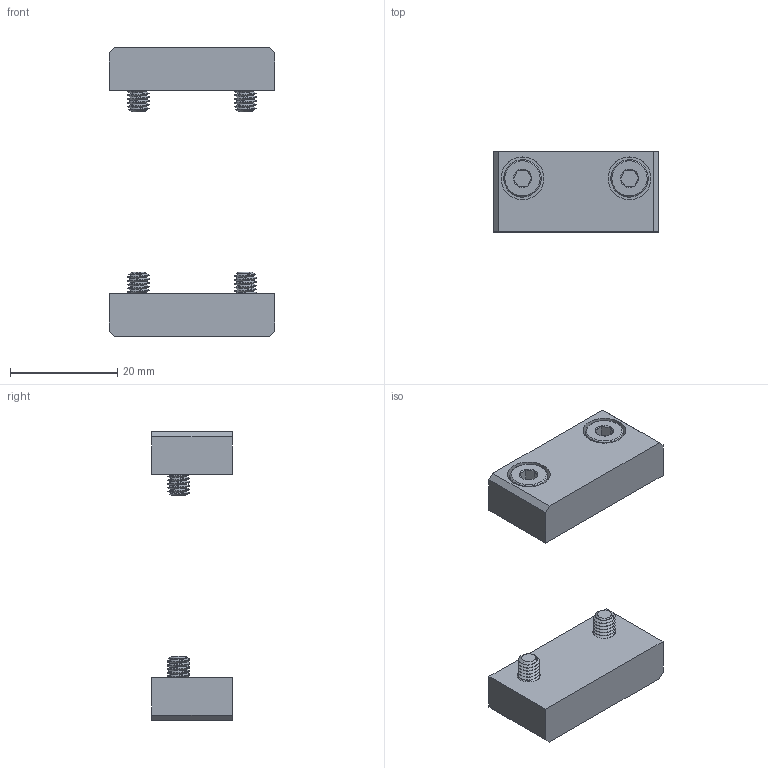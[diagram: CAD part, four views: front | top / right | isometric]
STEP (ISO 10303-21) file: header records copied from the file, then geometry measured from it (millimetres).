
FILE_DESCRIPTION (( 'STEP AP214' ), '1' );
FILE_NAME ('8800696_p.STEP', '2019-09-30T15:25:59', ( '' ), ( '' ), 'SwSTEP 2.0', 'SolidWorks 2018', '' );
FILE_SCHEMA (( 'AUTOMOTIVE_DESIGN' ));
Length unit declared in the file: millimetre
Products named in the file (1): 8800696_p
Bounding box: 31 x 15 x 54 mm (x, y, z)
Surface area: 4847.8 mm2 (no closed solid volume)
Topology: 0 solids, 10 shells, 312 faces, 840 edges, 540 vertices
Faces by surface type: cylinder 208, plane 52, cone 44, bspline 8
Entity records: 17804 total; most frequent: CARTESIAN_POINT 7669, ORIENTED_EDGE 1624, DIRECTION 1174, EDGE_CURVE 840, VERTEX_POINT 540, AXIS2_PLACEMENT_3D 433, EDGE_LOOP 324, UNCERTAINTY_MEASURE_WITH_UNIT 314
